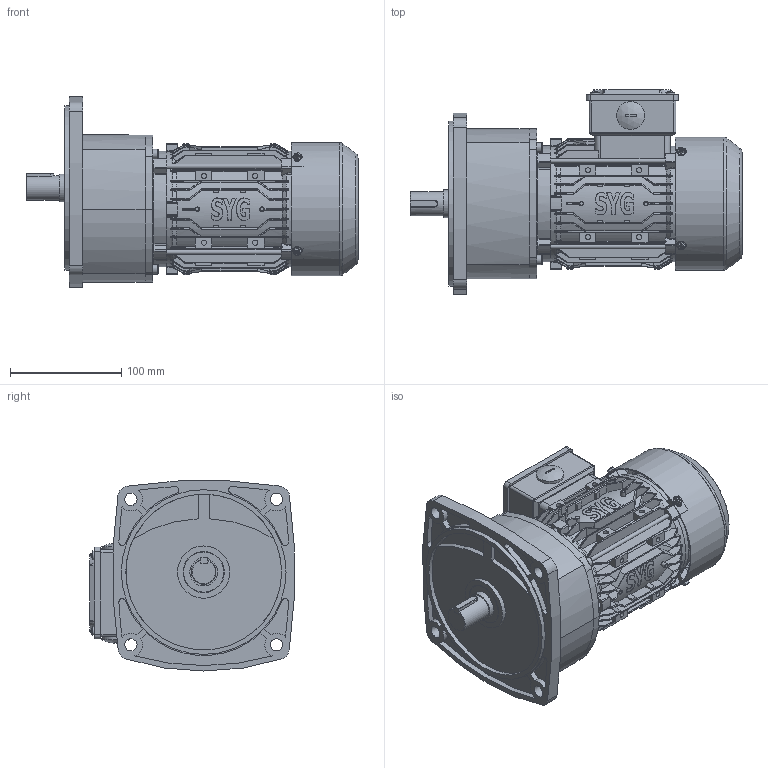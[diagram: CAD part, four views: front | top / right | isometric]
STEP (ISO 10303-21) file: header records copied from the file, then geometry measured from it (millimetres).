
FILE_DESCRIPTION(/* description */ (''),/* implementation_level */ '2;1');
FILE_NAME(/* name */ 'D:\▼ 3D：M2\00. 내부 직접 검토품\M2-088\외형도용 - ASS''Y\SK2\M20880B - OUTLINE (SK2，VT，0.2kW).stp',/* time_stamp */ '2026-05-12T13:54:41+09:00',/* author */ ('이정훈'),/* organization */ (''),/* preprocessor_version */ 'ST-DEVELOPER v18.1',/* originating_system */ 'Autodesk Inventor 2022',/* authorisation */ '');
FILE_SCHEMA (('AUTOMOTIVE_DESIGN { 1 0 10303 214 3 1 1 }'));
Products named in the file (1): M20880B - OUTLINE (SK2，VT，0.2kW
)
Bounding box: 298.41 x 183.97 x 170.91 mm (x, y, z)
Volume: 2859571 mm3; surface area: 300800.5 mm2
Topology: 1 solids, 1 shells, 2328 faces, 6674 edges, 4397 vertices
Faces by surface type: plane 1113, cylinder 481, bspline 474, cone 180, torus 58, sphere 22
Full cylindrical faces by diameter (mm): 3.81 x4, 4 x8, 4.609 x12, 5 x4, 5.2 x4, 5.6 x4, 8 x4, 8.5 x4, 10 x1, 11 x4, 12 x1, 21.5 x2, 22 x1, 25 x3, 30 x1, 37 x1, 47 x1, 92 x1, 118 x1, 119.6 x1, 140 x1, 148 x1
Entity records: 113027 total; most frequent: CARTESIAN_POINT 55229, ORIENTED_EDGE 13332, DIRECTION 10537, EDGE_CURVE 6666, VERTEX_POINT 4397, AXIS2_PLACEMENT_3D 3707, LINE 3123, VECTOR 3123
